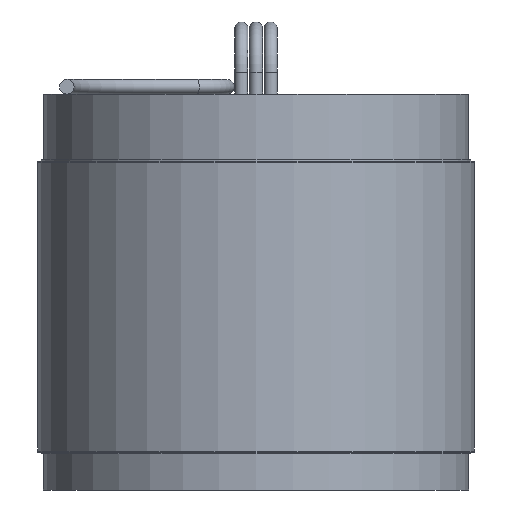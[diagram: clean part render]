
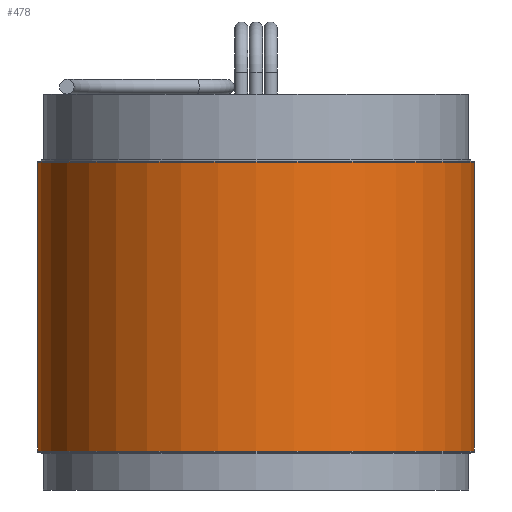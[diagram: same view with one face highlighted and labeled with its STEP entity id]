
A CAD part, front view. The second image highlights one B-rep face of the part: STEP entity #478.
In plain terms, the highlighted cylindrical face has radius 38.1 mm (diameter 76.2 mm), a full revolution.
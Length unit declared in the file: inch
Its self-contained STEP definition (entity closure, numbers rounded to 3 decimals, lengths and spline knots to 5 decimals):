
#3 = CYLINDRICAL_SURFACE ( 'NONE', #924, 1.5 ) ;
#42 = CARTESIAN_POINT ( 'NONE',  ( 0., 0., -1.01 ) ) ;
#59 = CARTESIAN_POINT ( 'NONE',  ( 0., 0., 0.99213 ) ) ;
#101 = AXIS2_PLACEMENT_3D ( 'NONE', #800, #1228, #685 ) ;
#138 = DIRECTION ( 'NONE',  ( 1., 0., 0. ) ) ;
#170 = AXIS2_PLACEMENT_3D ( 'NONE', #59, #275, #1065 ) ;
#256 = EDGE_CURVE ( 'NONE', #922, #922, #969, .T. ) ;
#275 = DIRECTION ( 'NONE',  ( 0., 0., 1. ) ) ;
#321 = CARTESIAN_POINT ( 'NONE',  ( 1.5, 0., -0.99213 ) ) ;
#383 = FACE_OUTER_BOUND ( 'NONE', #775, .T. ) ;
#432 = CIRCLE ( 'NONE', #170, 1.5 ) ;
#478 = ADVANCED_FACE ( 'NONE', ( #686, #383 ), #3, .T. ) ;
#568 = VERTEX_POINT ( 'NONE', #645 ) ;
#587 = EDGE_LOOP ( 'NONE', ( #957 ) ) ;
#628 = ORIENTED_EDGE ( 'NONE', *, *, #256, .T. ) ;
#645 = CARTESIAN_POINT ( 'NONE',  ( 1.5, 0., 0.99213 ) ) ;
#685 = DIRECTION ( 'NONE',  ( 1., 0., 0. ) ) ;
#686 = FACE_OUTER_BOUND ( 'NONE', #587, .T. ) ;
#734 = EDGE_CURVE ( 'NONE', #568, #568, #432, .T. ) ;
#775 = EDGE_LOOP ( 'NONE', ( #628 ) ) ;
#800 = CARTESIAN_POINT ( 'NONE',  ( 0., 0., -0.99213 ) ) ;
#922 = VERTEX_POINT ( 'NONE', #321 ) ;
#924 = AXIS2_PLACEMENT_3D ( 'NONE', #42, #944, #138 ) ;
#944 = DIRECTION ( 'NONE',  ( 0., 0., 1. ) ) ;
#957 = ORIENTED_EDGE ( 'NONE', *, *, #734, .F. ) ;
#969 = CIRCLE ( 'NONE', #101, 1.5 ) ;
#1065 = DIRECTION ( 'NONE',  ( 1., 0., 0. ) ) ;
#1228 = DIRECTION ( 'NONE',  ( 0., 0., 1. ) ) ;
